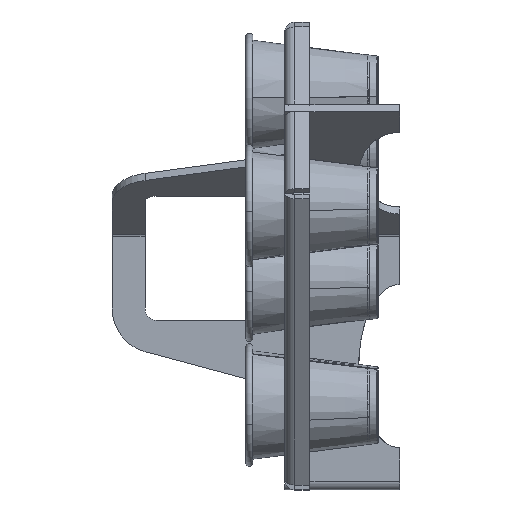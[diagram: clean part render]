
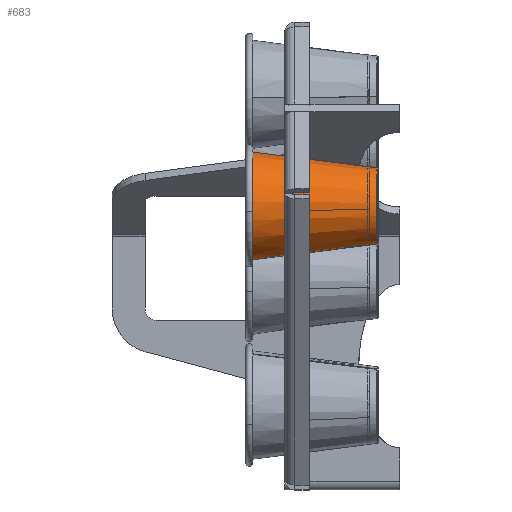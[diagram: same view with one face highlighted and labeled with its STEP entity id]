
A CAD part, left-side view. The second image highlights one B-rep face of the part: STEP entity #683.
In plain terms, the highlighted conical face has half-angle 7.306 degrees and reference radius 28.294 mm.
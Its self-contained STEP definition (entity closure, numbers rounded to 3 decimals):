
#228 = EDGE_CURVE ( 'NONE', #6702, #8382, #6397, .T. ) ;
#244 = DIRECTION ( 'NONE',  ( 0., 1., 0. ) ) ;
#493 = CARTESIAN_POINT ( 'NONE',  ( 28.294, 39.196, 0. ) ) ;
#626 = VERTEX_POINT ( 'NONE', #686 ) ;
#683 = ADVANCED_FACE ( 'NONE', ( #2187 ), #3383, .T. ) ;
#686 = CARTESIAN_POINT ( 'NONE',  ( 0., 78.196, -33.294 ) ) ;
#755 = VERTEX_POINT ( 'NONE', #8265 ) ;
#834 = CARTESIAN_POINT ( 'NONE',  ( -33.294, 78.196, 0. ) ) ;
#938 = DIRECTION ( 'NONE',  ( 1., 0., 0. ) ) ;
#1004 = DIRECTION ( 'NONE',  ( 0., 1., 0. ) ) ;
#1072 = LINE ( 'NONE', #8615, #8940 ) ;
#1081 = CARTESIAN_POINT ( 'NONE',  ( 0., 78.196, 0. ) ) ;
#1162 = AXIS2_PLACEMENT_3D ( 'NONE', #5140, #1004, #5264 ) ;
#1251 = EDGE_LOOP ( 'NONE', ( #6973, #3858, #3665, #3738, #6336, #3254 ) ) ;
#1366 = CARTESIAN_POINT ( 'NONE',  ( 23.294, 0.196, 0. ) ) ;
#1518 = AXIS2_PLACEMENT_3D ( 'NONE', #8704, #5253, #1710 ) ;
#1710 = DIRECTION ( 'NONE',  ( 1., 0., 0. ) ) ;
#1711 = DIRECTION ( 'NONE',  ( 1., 0., 0. ) ) ;
#1746 = DIRECTION ( 'NONE',  ( -0.127, 0.992, 0. ) ) ;
#1856 = EDGE_CURVE ( 'NONE', #755, #626, #2813, .T. ) ;
#2187 = FACE_OUTER_BOUND ( 'NONE', #1251, .T. ) ;
#2689 = AXIS2_PLACEMENT_3D ( 'NONE', #7830, #244, #938 ) ;
#2813 = CIRCLE ( 'NONE', #7294, 33.294 ) ;
#3254 = ORIENTED_EDGE ( 'NONE', *, *, #1856, .F. ) ;
#3383 = CONICAL_SURFACE ( 'NONE', #3514, 28.294, 0.128 ) ;
#3514 = AXIS2_PLACEMENT_3D ( 'NONE', #6830, #7470, #8181 ) ;
#3665 = ORIENTED_EDGE ( 'NONE', *, *, #228, .T. ) ;
#3699 = VERTEX_POINT ( 'NONE', #1366 ) ;
#3722 = VECTOR ( 'NONE', #6777, 1000. ) ;
#3738 = ORIENTED_EDGE ( 'NONE', *, *, #8427, .T. ) ;
#3806 = CARTESIAN_POINT ( 'NONE',  ( -23.294, 0.196, 0. ) ) ;
#3858 = ORIENTED_EDGE ( 'NONE', *, *, #6755, .T. ) ;
#5135 = VERTEX_POINT ( 'NONE', #834 ) ;
#5140 = CARTESIAN_POINT ( 'NONE',  ( 0., 0.196, 0. ) ) ;
#5253 = DIRECTION ( 'NONE',  ( 0., 1., 0. ) ) ;
#5264 = DIRECTION ( 'NONE',  ( 1., 0., 0. ) ) ;
#5314 = DIRECTION ( 'NONE',  ( 0., 1., 0. ) ) ;
#6336 = ORIENTED_EDGE ( 'NONE', *, *, #8356, .F. ) ;
#6344 = EDGE_CURVE ( 'NONE', #3699, #755, #6393, .T. ) ;
#6358 = CARTESIAN_POINT ( 'NONE',  ( 0., 0.196, -23.294 ) ) ;
#6393 = LINE ( 'NONE', #493, #3722 ) ;
#6397 = CIRCLE ( 'NONE', #2689, 23.294 ) ;
#6597 = CIRCLE ( 'NONE', #1162, 23.294 ) ;
#6702 = VERTEX_POINT ( 'NONE', #6358 ) ;
#6755 = EDGE_CURVE ( 'NONE', #3699, #6702, #6597, .T. ) ;
#6771 = CIRCLE ( 'NONE', #1518, 33.294 ) ;
#6777 = DIRECTION ( 'NONE',  ( 0.127, 0.992, 0. ) ) ;
#6830 = CARTESIAN_POINT ( 'NONE',  ( 0., 39.196, 0. ) ) ;
#6973 = ORIENTED_EDGE ( 'NONE', *, *, #6344, .F. ) ;
#7294 = AXIS2_PLACEMENT_3D ( 'NONE', #1081, #5314, #1711 ) ;
#7470 = DIRECTION ( 'NONE',  ( 0., 1., 0. ) ) ;
#7830 = CARTESIAN_POINT ( 'NONE',  ( 0., 0.196, 0. ) ) ;
#8181 = DIRECTION ( 'NONE',  ( -1., 0., 0. ) ) ;
#8265 = CARTESIAN_POINT ( 'NONE',  ( 33.294, 78.196, 0. ) ) ;
#8356 = EDGE_CURVE ( 'NONE', #626, #5135, #6771, .T. ) ;
#8382 = VERTEX_POINT ( 'NONE', #3806 ) ;
#8427 = EDGE_CURVE ( 'NONE', #8382, #5135, #1072, .T. ) ;
#8615 = CARTESIAN_POINT ( 'NONE',  ( -28.294, 39.196, 0. ) ) ;
#8704 = CARTESIAN_POINT ( 'NONE',  ( 0., 78.196, 0. ) ) ;
#8940 = VECTOR ( 'NONE', #1746, 1000. ) ;
